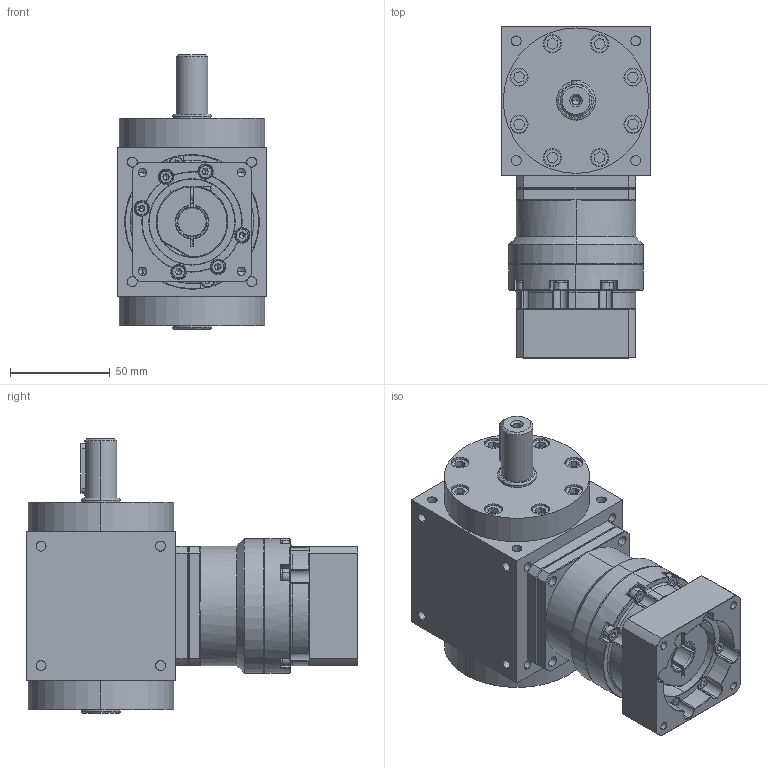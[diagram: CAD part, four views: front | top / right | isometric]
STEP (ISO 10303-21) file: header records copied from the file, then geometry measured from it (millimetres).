
FILE_DESCRIPTION (( 'STEP AP203' ), '1' );
FILE_NAME ('AT075-FL1-L1 14-50-70-M5.STEP', '2024-12-19T02:38:59', ( '' ), ( '' ), 'SwSTEP 2.0', 'SolidWorks 2021', '' );
FILE_SCHEMA (( 'CONFIG_CONTROL_DESIGN' ));
Length unit declared in the file: millimetre
Products named in the file (3): AT075-FL1-L1 14-50-70-M5; AT075-FL1; VRB-060-L1-S2-P1 14-50-70-M5
Assembly tree (2 placements, depth 2):
  AT075-FL1-L1 14-50-70-M5
    AT075-FL1
    VRB-060-L1-S2-P1 14-50-70-M5
Bounding box: 75 x 166.5 x 138 mm (x, y, z)
Volume: 804034.2 mm3; surface area: 120417.5 mm2
Topology: 33 solids, 33 shells, 1469 faces, 3634 edges, 2279 vertices
Faces by surface type: plane 602, cylinder 575, cone 222, torus 54, bspline 16
Entity records: 44449 total; most frequent: CARTESIAN_POINT 9283, DIRECTION 7591, ORIENTED_EDGE 7148, EDGE_CURVE 3574, AXIS2_PLACEMENT_3D 2956, VERTEX_POINT 2279, VECTOR 1679, LINE 1679
